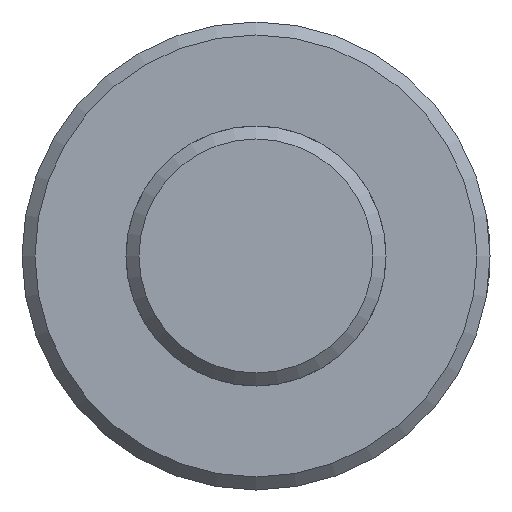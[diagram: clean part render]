
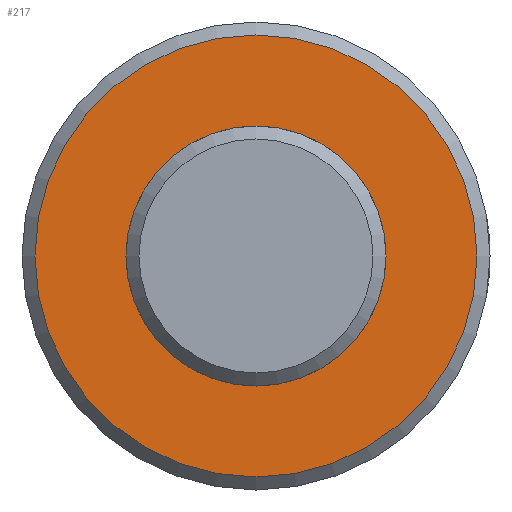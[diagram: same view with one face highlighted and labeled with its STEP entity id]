
A CAD part, left-side view. The second image highlights one B-rep face of the part: STEP entity #217.
In plain terms, the highlighted planar face has unit normal (-1, 0, 0).
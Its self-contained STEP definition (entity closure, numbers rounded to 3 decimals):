
#2 = PLANE ( 'NONE',  #457 ) ;
#43 = VERTEX_POINT ( 'NONE', #279 ) ;
#104 = DIRECTION ( 'NONE',  ( 1., 0., 0. ) ) ;
#109 = DIRECTION ( 'NONE',  ( 0., 0., 1. ) ) ;
#113 = CARTESIAN_POINT ( 'NONE',  ( -49.75, 0., 0. ) ) ;
#118 = CIRCLE ( 'NONE', #311, 10. ) ;
#137 = EDGE_LOOP ( 'NONE', ( #166 ) ) ;
#140 = EDGE_LOOP ( 'NONE', ( #261 ) ) ;
#166 = ORIENTED_EDGE ( 'NONE', *, *, #256, .T. ) ;
#173 = VERTEX_POINT ( 'NONE', #586 ) ;
#174 = CARTESIAN_POINT ( 'NONE',  ( -49.75, 0., 0. ) ) ;
#198 = AXIS2_PLACEMENT_3D ( 'NONE', #285, #415, #109 ) ;
#217 = ADVANCED_FACE ( 'NONE', ( #524, #579 ), #2, .T. ) ;
#256 = EDGE_CURVE ( 'NONE', #173, #173, #322, .T. ) ;
#261 = ORIENTED_EDGE ( 'NONE', *, *, #737, .T. ) ;
#279 = CARTESIAN_POINT ( 'NONE',  ( -49.75, 7.072, -7.07 ) ) ;
#285 = CARTESIAN_POINT ( 'NONE',  ( -49.75, 0., 0. ) ) ;
#311 = AXIS2_PLACEMENT_3D ( 'NONE', #113, #104, #581 ) ;
#322 = CIRCLE ( 'NONE', #198, 17. ) ;
#340 = DIRECTION ( 'NONE',  ( -1., 0., 0. ) ) ;
#415 = DIRECTION ( 'NONE',  ( -1., 0., 0. ) ) ;
#419 = DIRECTION ( 'NONE',  ( 0., 0., 1. ) ) ;
#457 = AXIS2_PLACEMENT_3D ( 'NONE', #174, #340, #419 ) ;
#524 = FACE_BOUND ( 'NONE', #140, .T. ) ;
#579 = FACE_OUTER_BOUND ( 'NONE', #137, .T. ) ;
#581 = DIRECTION ( 'NONE',  ( 0., 0.707, -0.707 ) ) ;
#586 = CARTESIAN_POINT ( 'NONE',  ( -49.75, 0., 17. ) ) ;
#737 = EDGE_CURVE ( 'NONE', #43, #43, #118, .T. ) ;
